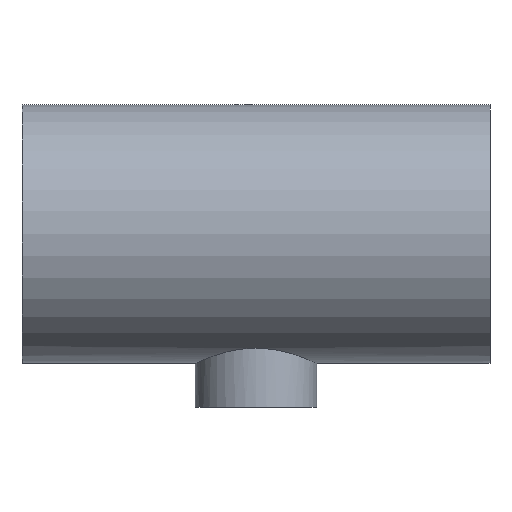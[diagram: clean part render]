
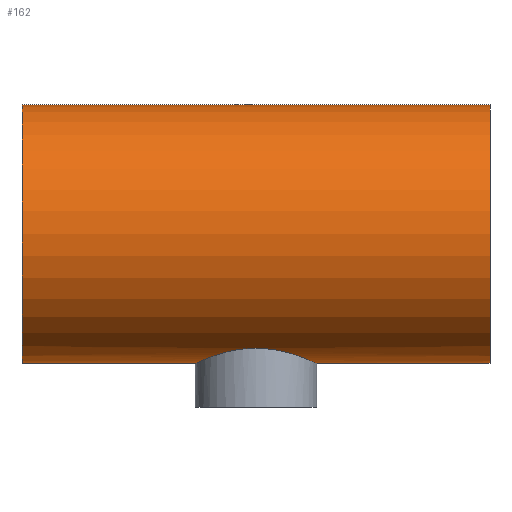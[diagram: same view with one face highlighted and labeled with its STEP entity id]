
A CAD part, top view. The second image highlights one B-rep face of the part: STEP entity #162.
In plain terms, the highlighted cylindrical face has radius 65 mm (diameter 130 mm), a full revolution.
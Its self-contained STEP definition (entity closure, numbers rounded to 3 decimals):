
#16=B_SPLINE_CURVE_WITH_KNOTS('',3,(#344,#345,#346,#347,#348,#349,#350,
#351,#352,#353,#354,#355,#356,#357,#358,#359,#360,#361,#362,#363,#364,#365,
#366,#367,#368,#369,#370,#371,#372,#373,#374,#375,#376,#377,#378,#379,#380,
#381,#382,#383,#384,#385,#386,#387,#388,#389,#390,#391,#392,#393,#394,#395,
#396,#397,#398,#399,#400,#401,#402,#403,#404,#405,#406,#407,#408,#409),
 .UNSPECIFIED.,.T.,.F.,(4,2,2,2,2,2,2,2,2,2,2,2,2,2,2,2,2,2,2,2,2,2,2,2,
2,2,2,2,2,2,2,2,4),(0.,0.585,1.17,1.756,
2.341,2.925,3.509,4.093,4.677,
5.261,5.845,6.429,7.013,7.598,
8.183,8.769,9.354,9.939,10.524,
11.109,11.695,12.279,12.863,13.447,
14.031,14.615,15.199,15.783,16.367,
16.952,17.537,18.122,18.708),
 .UNSPECIFIED.);
#32=FACE_BOUND('',#69,.T.);
#33=FACE_BOUND('',#70,.T.);
#46=FACE_OUTER_BOUND('',#68,.T.);
#68=EDGE_LOOP('',(#136));
#69=EDGE_LOOP('',(#137));
#70=EDGE_LOOP('',(#138));
#88=CIRCLE('',#187,65.);
#89=CIRCLE('',#188,65.);
#101=VERTEX_POINT('',#341);
#102=VERTEX_POINT('',#343);
#103=VERTEX_POINT('',#410);
#115=EDGE_CURVE('',#101,#101,#88,.T.);
#116=EDGE_CURVE('',#102,#102,#16,.T.);
#117=EDGE_CURVE('',#103,#103,#89,.T.);
#136=ORIENTED_EDGE('',*,*,#115,.F.);
#137=ORIENTED_EDGE('',*,*,#116,.T.);
#138=ORIENTED_EDGE('',*,*,#117,.F.);
#152=CYLINDRICAL_SURFACE('',#186,65.);
#162=ADVANCED_FACE('',(#46,#32,#33),#152,.T.);
#186=AXIS2_PLACEMENT_3D('',#340,#230,#231);
#187=AXIS2_PLACEMENT_3D('',#342,#232,#233);
#188=AXIS2_PLACEMENT_3D('',#411,#234,#235);
#230=DIRECTION('center_axis',(1.,0.,0.));
#231=DIRECTION('ref_axis',(0.,-1.,0.));
#232=DIRECTION('center_axis',(-1.,0.,0.));
#233=DIRECTION('ref_axis',(0.,-1.,0.));
#234=DIRECTION('center_axis',(1.,0.,0.));
#235=DIRECTION('ref_axis',(0.,-1.,0.));
#340=CARTESIAN_POINT('Origin',(0.,0.,0.));
#341=CARTESIAN_POINT('',(-117.5,65.,0.));
#342=CARTESIAN_POINT('Origin',(-117.5,0.,0.));
#343=CARTESIAN_POINT('',(0.,-57.4,30.5));
#344=CARTESIAN_POINT('Ctrl Pts',(0.,-57.4,30.5));
#345=CARTESIAN_POINT('Ctrl Pts',(1.951,-57.4,30.5));
#346=CARTESIAN_POINT('Ctrl Pts',(3.956,-57.502,30.31));
#347=CARTESIAN_POINT('Ctrl Pts',(7.922,-57.91,29.522));
#348=CARTESIAN_POINT('Ctrl Pts',(9.884,-58.216,28.925));
#349=CARTESIAN_POINT('Ctrl Pts',(13.629,-58.967,27.361));
#350=CARTESIAN_POINT('Ctrl Pts',(15.416,-59.413,26.392));
#351=CARTESIAN_POINT('Ctrl Pts',(18.716,-60.353,24.164));
#352=CARTESIAN_POINT('Ctrl Pts',(20.228,-60.847,22.905));
#353=CARTESIAN_POINT('Ctrl Pts',(22.903,-61.788,20.231));
#354=CARTESIAN_POINT('Ctrl Pts',(24.161,-62.269,18.72));
#355=CARTESIAN_POINT('Ctrl Pts',(26.39,-63.168,15.42));
#356=CARTESIAN_POINT('Ctrl Pts',(27.36,-63.583,13.631));
#357=CARTESIAN_POINT('Ctrl Pts',(28.926,-64.273,9.881));
#358=CARTESIAN_POINT('Ctrl Pts',(29.524,-64.547,7.918));
#359=CARTESIAN_POINT('Ctrl Pts',(30.311,-64.91,3.95));
#360=CARTESIAN_POINT('Ctrl Pts',(30.5,-65.,1.947));
#361=CARTESIAN_POINT('Ctrl Pts',(30.5,-65.,-1.947));
#362=CARTESIAN_POINT('Ctrl Pts',(30.311,-64.91,-3.95));
#363=CARTESIAN_POINT('Ctrl Pts',(29.524,-64.547,-7.918));
#364=CARTESIAN_POINT('Ctrl Pts',(28.926,-64.273,-9.881));
#365=CARTESIAN_POINT('Ctrl Pts',(27.36,-63.583,-13.631));
#366=CARTESIAN_POINT('Ctrl Pts',(26.39,-63.168,-15.42));
#367=CARTESIAN_POINT('Ctrl Pts',(24.161,-62.269,-18.72));
#368=CARTESIAN_POINT('Ctrl Pts',(22.903,-61.788,-20.231));
#369=CARTESIAN_POINT('Ctrl Pts',(20.228,-60.847,-22.905));
#370=CARTESIAN_POINT('Ctrl Pts',(18.716,-60.353,-24.164));
#371=CARTESIAN_POINT('Ctrl Pts',(15.416,-59.413,-26.392));
#372=CARTESIAN_POINT('Ctrl Pts',(13.629,-58.967,-27.361));
#373=CARTESIAN_POINT('Ctrl Pts',(9.884,-58.216,-28.925));
#374=CARTESIAN_POINT('Ctrl Pts',(7.922,-57.91,-29.522));
#375=CARTESIAN_POINT('Ctrl Pts',(3.956,-57.502,-30.31));
#376=CARTESIAN_POINT('Ctrl Pts',(1.951,-57.4,-30.5));
#377=CARTESIAN_POINT('Ctrl Pts',(-1.951,-57.4,-30.5));
#378=CARTESIAN_POINT('Ctrl Pts',(-3.956,-57.502,-30.31));
#379=CARTESIAN_POINT('Ctrl Pts',(-7.922,-57.91,-29.522));
#380=CARTESIAN_POINT('Ctrl Pts',(-9.884,-58.216,-28.925));
#381=CARTESIAN_POINT('Ctrl Pts',(-13.629,-58.967,-27.361));
#382=CARTESIAN_POINT('Ctrl Pts',(-15.416,-59.413,-26.392));
#383=CARTESIAN_POINT('Ctrl Pts',(-18.716,-60.353,-24.164));
#384=CARTESIAN_POINT('Ctrl Pts',(-20.228,-60.847,-22.905));
#385=CARTESIAN_POINT('Ctrl Pts',(-22.903,-61.788,-20.231));
#386=CARTESIAN_POINT('Ctrl Pts',(-24.161,-62.269,-18.72));
#387=CARTESIAN_POINT('Ctrl Pts',(-26.39,-63.168,-15.42));
#388=CARTESIAN_POINT('Ctrl Pts',(-27.36,-63.583,-13.631));
#389=CARTESIAN_POINT('Ctrl Pts',(-28.926,-64.273,-9.881));
#390=CARTESIAN_POINT('Ctrl Pts',(-29.524,-64.547,-7.918));
#391=CARTESIAN_POINT('Ctrl Pts',(-30.311,-64.91,-3.95));
#392=CARTESIAN_POINT('Ctrl Pts',(-30.5,-65.,-1.947));
#393=CARTESIAN_POINT('Ctrl Pts',(-30.5,-65.,1.947));
#394=CARTESIAN_POINT('Ctrl Pts',(-30.311,-64.91,3.95));
#395=CARTESIAN_POINT('Ctrl Pts',(-29.524,-64.547,7.918));
#396=CARTESIAN_POINT('Ctrl Pts',(-28.926,-64.273,9.881));
#397=CARTESIAN_POINT('Ctrl Pts',(-27.36,-63.583,13.631));
#398=CARTESIAN_POINT('Ctrl Pts',(-26.39,-63.168,15.42));
#399=CARTESIAN_POINT('Ctrl Pts',(-24.161,-62.269,18.72));
#400=CARTESIAN_POINT('Ctrl Pts',(-22.903,-61.788,20.231));
#401=CARTESIAN_POINT('Ctrl Pts',(-20.228,-60.847,22.905));
#402=CARTESIAN_POINT('Ctrl Pts',(-18.716,-60.353,24.164));
#403=CARTESIAN_POINT('Ctrl Pts',(-15.416,-59.413,26.392));
#404=CARTESIAN_POINT('Ctrl Pts',(-13.629,-58.967,27.361));
#405=CARTESIAN_POINT('Ctrl Pts',(-9.884,-58.216,28.925));
#406=CARTESIAN_POINT('Ctrl Pts',(-7.922,-57.91,29.522));
#407=CARTESIAN_POINT('Ctrl Pts',(-3.956,-57.502,30.31));
#408=CARTESIAN_POINT('Ctrl Pts',(-1.951,-57.4,30.5));
#409=CARTESIAN_POINT('Ctrl Pts',(0.,-57.4,
30.5));
#410=CARTESIAN_POINT('',(117.5,65.,0.));
#411=CARTESIAN_POINT('Origin',(117.5,0.,0.));
